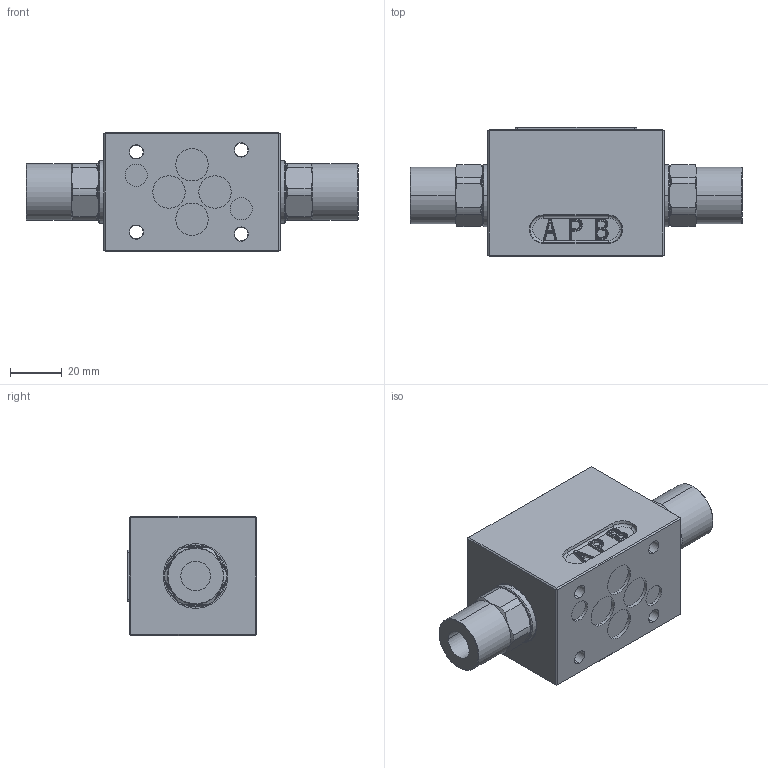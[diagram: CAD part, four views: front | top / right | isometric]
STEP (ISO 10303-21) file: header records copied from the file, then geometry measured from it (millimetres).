
FILE_DESCRIPTION (( 'STEP AP214' ), '1' );
FILE_NAME ('WDFFA06-se.STEP', '2021-09-21T08:39:57', ( '' ), ( '' ), 'SwSTEP 2.0', 'SolidWorks 2020', '' );
FILE_SCHEMA (( 'AUTOMOTIVE_DESIGN' ));
Length unit declared in the file: millimetre
Products named in the file (1): WDFFA06-se
Bounding box: 128.2 x 49.8 x 46 mm (x, y, z)
Volume: 166215 mm3; surface area: 27298.3 mm2
Topology: 1 solids, 1 shells, 418 faces, 1017 edges, 621 vertices
Faces by surface type: cylinder 150, plane 140, cone 38, torus 36, bspline 36, sphere 18
Entity records: 18767 total; most frequent: CARTESIAN_POINT 4547, ORIENTED_EDGE 2000, DIRECTION 1997, EDGE_CURVE 1000, AXIS2_PLACEMENT_3D 774, VERTEX_POINT 621, EDGE_LOOP 463, LINE 449
